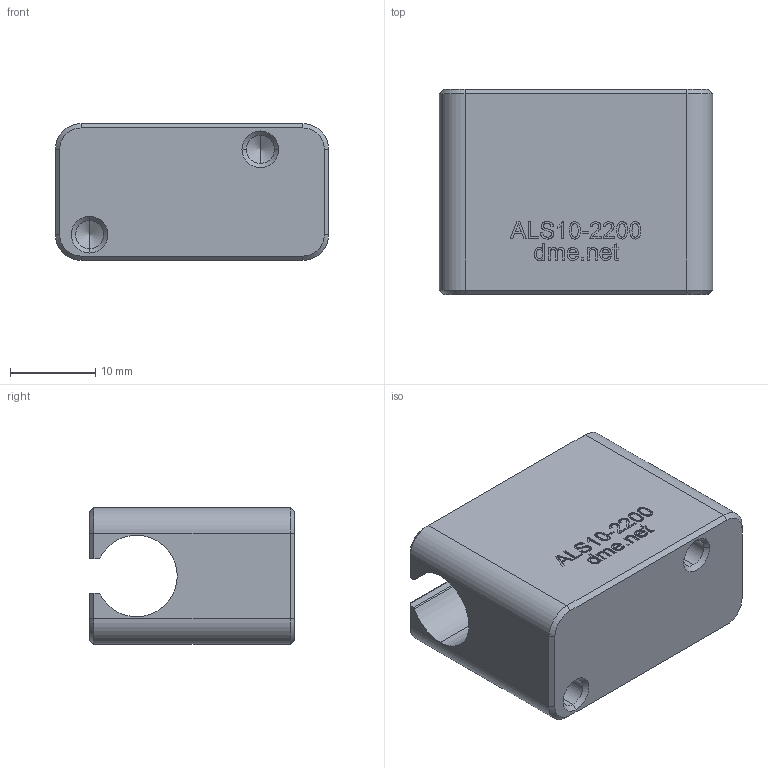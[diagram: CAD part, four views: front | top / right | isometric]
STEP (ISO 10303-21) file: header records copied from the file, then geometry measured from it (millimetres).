
FILE_DESCRIPTION (( 'STEP AP203' ), '1' );
FILE_NAME ('ALS10-2200.STEP', '2021-01-10T20:51:51', ( '' ), ( '' ), 'SwSTEP 2.0', 'SolidWorks 2020', '' );
FILE_SCHEMA (( 'CONFIG_CONTROL_DESIGN' ));
Length unit declared in the file: millimetre
Products named in the file (1): ALS10-2200
Bounding box: 32 x 24 x 16 mm (x, y, z)
Volume: 9538.1 mm3; surface area: 3937.4 mm2
Topology: 1 solids, 1 shells, 267 faces, 701 edges, 458 vertices
Faces by surface type: plane 125, bspline 111, cone 16, cylinder 15
Entity records: 14226 total; most frequent: CARTESIAN_POINT 8331, ORIENTED_EDGE 1394, DIRECTION 823, EDGE_CURVE 697, VERTEX_POINT 458, LINE 429, VECTOR 429, EDGE_LOOP 293
